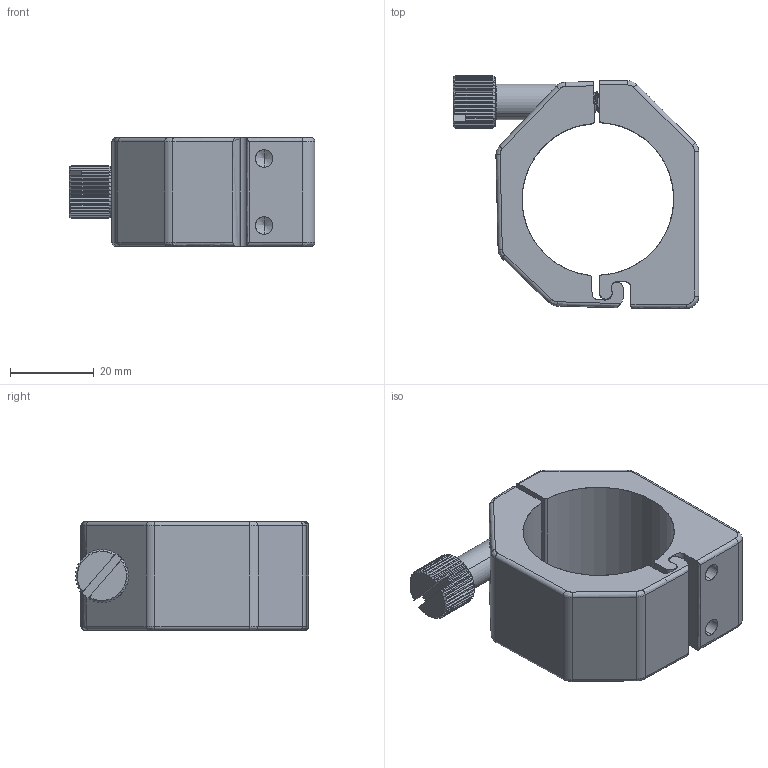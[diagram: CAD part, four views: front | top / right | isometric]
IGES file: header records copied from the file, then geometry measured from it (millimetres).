
Start section: SolidWorks IGES file using analytic representation for surfaces
Global section: file name: C:\Users\Brian\Dropbox\BR-Engineering\PROJECTS\NEWTON-GRIPPER\MODELS\DEVELOPMENT\NEWTON-MOUNT-ASM-X2A.IGS; native system: SolidWorks 2016; preprocessor: SolidWorks 2016; author: Brian; date: 180604.120428; units: millimetre
Bounding box: 58.66 x 55.75 x 26 mm (x, y, z)
Surface area: 13451.4 mm2 (no closed solid volume)
Topology: 0 solids, 0 shells, 300 faces, 3276 edges, 3271 vertices
Faces by surface type: revolution 163, bspline 137
